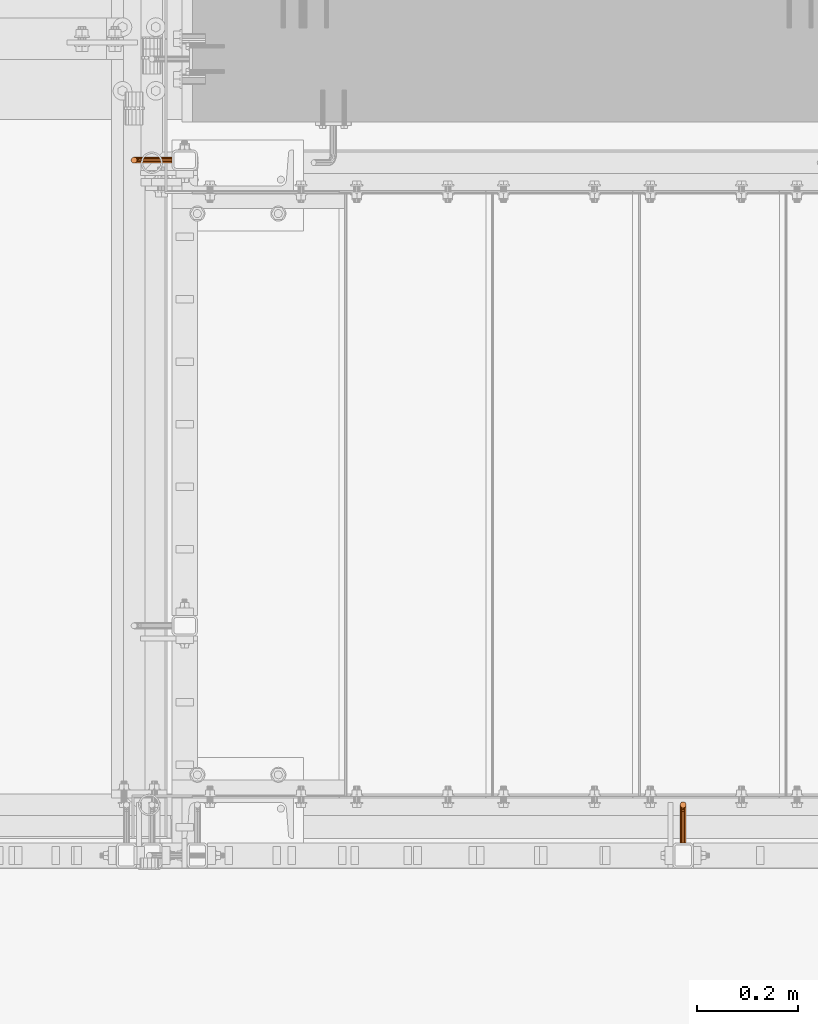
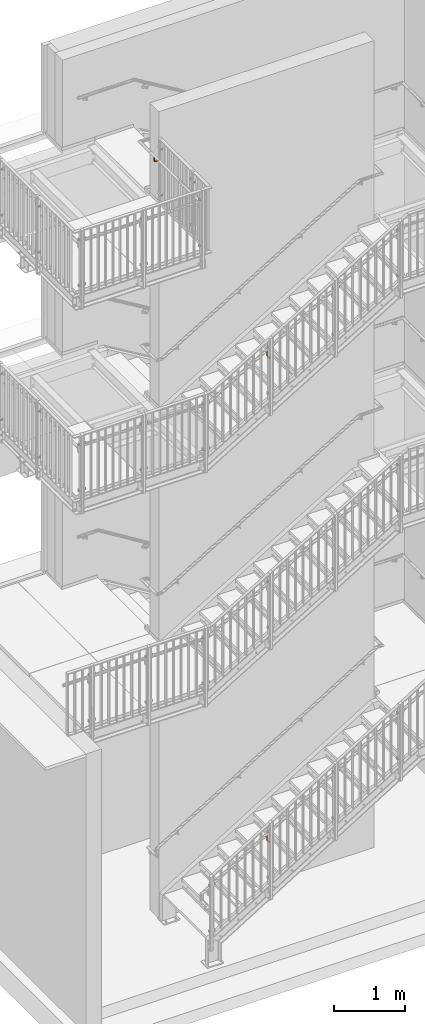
# One storey, part 373 of 410: 3 proxies.
"""IFC2X3 building model written with IfcOpenShell, lengths in millimetres."""

from ifc_helpers import new_model, entity, si_unit, converted_unit, origin_with_axes, place, context, project, spatial, faceted_brep, element, save


model = new_model("IFC2X3")

# Units and contexts
model_context = context("Model", 3, precision=1e-09, world=origin_with_axes())
ifc_project = project(units=[si_unit("LENGTHUNIT", "METRE", prefix="MILLI"), si_unit("AREAUNIT", "SQUARE_METRE"), si_unit("VOLUMEUNIT", "CUBIC_METRE"), converted_unit("PLANEANGLEUNIT", "DEGREE", entity("IfcPlaneAngleMeasure", 0.01745329), si_unit("PLANEANGLEUNIT", "RADIAN"), dimensions=[0, 0, 0, 0, 0, 0, 0])], contexts=[model_context])

# Site, building, storey
site_placement = place(None, origin_with_axes())
site = spatial("IfcSite", under=ifc_project, at=site_placement, Name="mKR Teilneubau & Sanierung BA1 - Ostfildern", CompositionType="ELEMENT")
building_placement = place(site_placement, origin_with_axes())
building = spatial("IfcBuilding", under=site, at=building_placement, Name="Struktur 1", CompositionType="ELEMENT")
storey_placement = place(building_placement, origin_with_axes())
storey = spatial("IfcBuildingStorey", under=building, at=storey_placement, Name="Default Storey", CompositionType="ELEMENT", Elevation=0.0)

# Proxies
proxy_1_placement = place(None, origin_with_axes())
element("IfcBuildingElementProxy", 1, at=proxy_1_placement, inside=storey, ObjectType="-", context=model_context, shape_type="Brep", body=[
    faceted_brep([(-740.194684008, 15430.999999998, -2967.444082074), (-737.998531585, 15430.999999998, -2969.640234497), (-734.998531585, 15430.999999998, -2970.444082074), (-731.998531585, 15430.999999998, -2969.640234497), (-729.802379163, 15430.999999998, -2967.444082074), (-728.998531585, 15430.999999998, -2964.444082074), (-729.802379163, 15430.999999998, -2961.444082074), (-731.998531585, 15430.999999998, -2959.247929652), (-734.998531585, 15430.999999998, -2958.444082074), (-737.998531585, 15430.999999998, -2959.247929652), (-740.194684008, 15430.999999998, -2961.444082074), (-740.998531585, 15430.999999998, -2964.444082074), (-731.998531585, 15487.999999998, -2959.247929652), (-729.802379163, 15487.999999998, -2961.444082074), (-737.998531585, 15487.999999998, -2959.247929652), (-740.194684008, 15487.999999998, -2961.444082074), (-734.998531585, 15487.999999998, -2958.444082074), (-729.802379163, 15493.740251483, -2960.302275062), (-731.998531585, 15492.899820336, -2958.273294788), (-740.998531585, 15487.999999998, -2964.444082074), (-734.998531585, 15492.592201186, -2957.530636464), (-728.998531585, 15487.999999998, -2964.444082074), (-731.998531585, 15497.053687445, -2955.497769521), (-734.998531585, 15496.485281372, -2954.929363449), (-737.998531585, 15492.899820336, -2958.273294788), (-740.194684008, 15493.740251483, -2960.302275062), (-731.998531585, 15499.829212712, -2951.343902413), (-734.998531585, 15499.086554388, -2951.036283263), (-728.998531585, 15494.888301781, -2963.07391366), (-729.802379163, 15498.606601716, -2957.050683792), (-729.802379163, 15487.999999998, -2967.444082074), (-731.998531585, 15487.999999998, -2969.640234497), (-734.998531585, 15487.999999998, -2970.444082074), (-737.998531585, 15487.999999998, -2969.640234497), (-740.194684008, 15487.999999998, -2967.444082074), (-740.998531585, 15494.888301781, -2963.07391366), (-737.998531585, 15497.053687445, -2955.497769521), (-737.998531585, 15499.829212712, -2951.343902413), (-737.29463218, 15500.456722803, -2894.428882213), (-737.998531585, 15500.803847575, -2946.444082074), (-734.998531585, 15499.999999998, -2946.444082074), (-734.998531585, 15499.999999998, -2893.049245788), (-730.755890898, 15510.242640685, -2890.500010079), (-732.702430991, 15511.543277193, -2891.669609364), (-734.998531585, 15511.999999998, -2893.049245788), (-737.29463218, 15511.543277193, -2894.428882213), (-739.241172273, 15510.242640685, -2895.598481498), (-740.541808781, 15508.296100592, -2896.379982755), (-740.998531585, 15505.999999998, -2896.654409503), (-740.541808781, 15503.703899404, -2896.379982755), (-739.241172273, 15501.757359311, -2895.598481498), (-732.702430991, 15500.456722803, -2891.669609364), (-730.755890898, 15501.757359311, -2890.500010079), (-729.45525439, 15503.703899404, -2889.718508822), (-728.998531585, 15505.999999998, -2889.444082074), (-729.45525439, 15508.296100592, -2889.718508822), (-740.194684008, 15496.036352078, -2965.845552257), (-740.194684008, 15498.606601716, -2957.050683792), (-740.998531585, 15500.727922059, -2959.172004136), (-731.998531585, 15500.803847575, -2946.444082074), (-729.802379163, 15501.858192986, -2952.18433356), (-729.802379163, 15496.036352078, -2965.845552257), (-728.998531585, 15500.727922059, -2959.172004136), (-731.998531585, 15496.876783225, -2967.874532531), (-734.998531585, 15497.184402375, -2968.617190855), (-737.998531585, 15496.876783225, -2967.874532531), (-740.194684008, 15502.849242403, -2961.293324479), (-740.194684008, 15502.999999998, -2946.444082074), (-740.194684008, 15501.858192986, -2952.18433356), (-737.998531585, 15504.402156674, -2962.84623875), (-740.998531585, 15504.629831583, -2953.332383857), (-740.194684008, 15507.401470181, -2954.480434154), (-729.802379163, 15502.999999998, -2946.444082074), (-728.998531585, 15504.629831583, -2953.332383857), (-729.802379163, 15502.849242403, -2961.293324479), (-731.998531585, 15504.402156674, -2962.84623875), (-734.998531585, 15504.970562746, -2963.414644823), (-737.998531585, 15509.430450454, -2955.320865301), (-740.998531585, 15505.999999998, -2946.444082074), (-734.998531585, 15510.173108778, -2955.628484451), (-740.194684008, 15508.999999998, -2946.444082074), (-737.998531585, 15511.196152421, -2946.444082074), (-728.998531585, 15505.999999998, -2946.444082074), (-729.802379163, 15507.401470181, -2954.480434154), (-731.998531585, 15509.430450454, -2955.320865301), (-734.998531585, 15511.999999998, -2946.444082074), (-731.998531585, 15511.196152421, -2946.444082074), (-729.802379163, 15508.999999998, -2946.444082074)], [[[0, 1, 2, 3, 4, 5, 6, 7, 8, 9, 10, 11]], [[12, 7, 6, 13]], [[9, 14, 15, 10]], [[8, 16, 14, 9]], [[7, 12, 16, 8]], [[12, 13, 17, 18]], [[10, 15, 19, 11]], [[18, 20, 16, 12]], [[13, 6, 5, 21]], [[22, 23, 20, 18]], [[15, 14, 24, 25]], [[14, 16, 20, 24]], [[23, 22, 26, 27]], [[13, 21, 28, 17]], [[18, 17, 29, 22]], [[4, 30, 21, 5]], [[3, 31, 30, 4]], [[2, 32, 31, 3]], [[1, 33, 32, 2]], [[0, 34, 33, 1]], [[11, 19, 34, 0]], [[19, 15, 25, 35]], [[23, 36, 24, 20]], [[27, 37, 36, 23]], [[38, 39, 40]], [[40, 39, 37, 27]], [[41, 38, 40]], [[42, 43, 44, 45, 46, 47, 48, 49, 50, 38, 41, 51, 52, 53, 54, 55]], [[35, 56, 34, 19]], [[35, 25, 57, 58]], [[25, 24, 36, 57]], [[38, 50, 39]], [[27, 26, 59, 40]], [[22, 29, 60, 26]], [[21, 30, 61, 28]], [[17, 28, 62, 29]], [[51, 41, 40]], [[30, 31, 63, 61]], [[31, 32, 64, 63]], [[32, 33, 65, 64]], [[33, 34, 56, 65]], [[56, 35, 58, 66]], [[39, 67, 68, 37]], [[37, 68, 57, 36]], [[50, 67, 39]], [[51, 40, 59]], [[66, 69, 65, 56]], [[66, 58, 70, 71]], [[58, 57, 68, 70]], [[50, 49, 67]], [[26, 60, 72, 59]], [[29, 62, 73, 60]], [[28, 61, 74, 62]], [[52, 51, 59]], [[61, 63, 75, 74]], [[63, 64, 76, 75]], [[64, 65, 69, 76]], [[69, 66, 71, 77]], [[67, 78, 70, 68]], [[49, 78, 67]], [[52, 59, 72]], [[77, 79, 76, 69]], [[77, 71, 80, 81]], [[71, 70, 78, 80]], [[49, 48, 78]], [[60, 73, 82, 72]], [[62, 74, 83, 73]], [[53, 52, 72]], [[74, 75, 84, 83]], [[75, 76, 79, 84]], [[79, 77, 81, 85]], [[45, 44, 85]], [[48, 47, 78]], [[53, 72, 82]], [[85, 86, 84, 79]], [[44, 43, 85]], [[45, 85, 81]], [[46, 81, 80]], [[47, 80, 78]], [[73, 83, 87, 82]], [[54, 53, 82]], [[83, 84, 86, 87]], [[43, 86, 85]], [[46, 45, 81]], [[47, 46, 80]], [[54, 82, 55]], [[43, 42, 86]], [[55, 82, 87]], [[42, 87, 86]], [[42, 55, 87]]]),
])
proxy_2_placement = place(None, origin_with_axes())
element("IfcBuildingElementProxy", 2, at=proxy_2_placement, inside=storey, ObjectType="-", context=model_context, shape_type="Brep", body=[
    faceted_brep([(-1802.0485317, 16780.0, 8238.6), (-1745.0485317, 16780.0, 8238.6), (-1745.0485317, 16783.0, 8237.796152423), (-1802.0485317, 16783.0, 8237.796152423), (-1745.0485317, 16774.803847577, 8229.6), (-1745.0485317, 16777.0, 8227.403847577), (-1745.0485317, 16780.0, 8226.6), (-1745.0485317, 16783.0, 8227.403847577), (-1745.0485317, 16785.196152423, 8229.6), (-1745.0485317, 16786.0, 8232.6), (-1745.0485317, 16785.196152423, 8235.6), (-1745.0485317, 16777.0, 8237.796152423), (-1745.0485317, 16774.803847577, 8235.6), (-1745.0485317, 16774.0, 8232.6), (-1802.0485317, 16777.0, 8237.796152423), (-1806.948352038, 16783.0, 8238.770787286), (-1806.640732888, 16780.0, 8239.51344561), (-1802.0485317, 16785.196152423, 8235.6), (-1806.948352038, 16777.0, 8238.770787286), (-1810.533813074, 16780.0, 8242.114718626), (-1811.102219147, 16777.0, 8241.546312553), (-1811.102219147, 16783.0, 8241.546312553), (-1807.788783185, 16785.196152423, 8236.741807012), (-1802.0485317, 16774.803847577, 8235.6), (-1813.13508609, 16780.0, 8246.007798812), (-1813.877744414, 16777.0, 8245.700179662), (-1814.852379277, 16777.0, 8250.6), (-1814.852379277, 16777.0, 8307.6), (-1817.0485317, 16774.803847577, 8307.6), (-1817.0485317, 16774.803847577, 8250.6), (-1814.0485317, 16780.0, 8250.6), (-1814.0485317, 16780.0, 8307.6), (-1802.0485317, 16786.0, 8232.6), (-1815.906724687, 16774.803847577, 8244.859748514), (-1807.788783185, 16774.803847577, 8236.741807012), (-1812.655133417, 16774.803847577, 8239.993398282), (-1823.0485317, 16785.196152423, 8307.6), (-1825.244684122, 16783.0, 8307.6), (-1826.0485317, 16780.0, 8307.6), (-1825.244684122, 16777.0, 8307.6), (-1823.0485317, 16774.803847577, 8307.6), (-1820.0485317, 16774.0, 8307.6), (-1814.852379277, 16783.0, 8307.6), (-1817.0485317, 16785.196152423, 8307.6), (-1820.0485317, 16786.0, 8307.6), (-1813.877744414, 16783.0, 8245.700179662), (-1808.936833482, 16786.0, 8233.970168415), (-1812.655133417, 16785.196152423, 8239.993398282), (-1802.0485317, 16774.0, 8232.6), (-1820.0485317, 16774.0, 8250.6), (-1814.852379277, 16783.0, 8250.6), (-1802.0485317, 16785.196152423, 8229.6), (-1818.678363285, 16774.0, 8243.711698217), (-1808.936833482, 16774.0, 8233.970168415), (-1814.776453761, 16774.0, 8237.872077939), (-1815.906724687, 16785.196152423, 8244.859748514), (-1810.084883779, 16785.196152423, 8231.198529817), (-1814.776453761, 16786.0, 8237.872077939), (-1802.0485317, 16783.0, 8227.403847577), (-1802.0485317, 16780.0, 8226.6), (-1802.0485317, 16777.0, 8227.403847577), (-1802.0485317, 16774.803847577, 8229.6), (-1823.0485317, 16774.803847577, 8250.6), (-1817.0485317, 16785.196152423, 8250.6), (-1821.450001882, 16774.803847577, 8242.56364792), (-1810.084883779, 16774.803847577, 8231.198529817), (-1816.897774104, 16774.803847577, 8235.750757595), (-1818.678363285, 16786.0, 8243.711698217), (-1810.925314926, 16783.0, 8229.169549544), (-1816.897774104, 16785.196152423, 8235.750757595), (-1811.232934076, 16780.0, 8228.42689122), (-1810.925314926, 16777.0, 8229.169549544), (-1825.244684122, 16777.0, 8250.6), (-1820.0485317, 16786.0, 8250.6), (-1823.478982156, 16777.0, 8241.723216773), (-1818.450688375, 16777.0, 8234.197843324), (-1821.450001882, 16785.196152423, 8242.56364792), (-1818.450688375, 16783.0, 8234.197843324), (-1826.0485317, 16780.0, 8250.6), (-1819.019094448, 16780.0, 8233.629437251), (-1823.0485317, 16785.196152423, 8250.6), (-1824.22164048, 16780.0, 8241.415597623), (-1823.478982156, 16783.0, 8241.723216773), (-1825.244684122, 16783.0, 8250.6)], [[[0, 1, 2, 3]], [[4, 5, 6, 7, 8, 9, 10, 2, 1, 11, 12, 13]], [[1, 0, 14, 11]], [[0, 3, 15, 16]], [[3, 2, 10, 17]], [[16, 18, 14, 0]], [[19, 20, 18, 16]], [[16, 15, 21, 19]], [[3, 17, 22, 15]], [[11, 14, 23, 12]], [[20, 19, 24, 25]], [[26, 27, 28, 29]], [[27, 26, 30, 31]], [[17, 10, 9, 32]], [[26, 29, 33, 25]], [[18, 34, 23, 14]], [[20, 35, 34, 18]], [[25, 33, 35, 20]], [[36, 37, 38, 39, 40, 41, 28, 27, 31, 42, 43, 44]], [[25, 24, 30, 26]], [[19, 21, 45, 24]], [[17, 32, 46, 22]], [[15, 22, 47, 21]], [[12, 23, 48, 13]], [[29, 28, 41, 49]], [[31, 30, 50, 42]], [[32, 9, 8, 51]], [[29, 49, 52, 33]], [[34, 53, 48, 23]], [[35, 54, 53, 34]], [[33, 52, 54, 35]], [[24, 45, 50, 30]], [[21, 47, 55, 45]], [[32, 51, 56, 46]], [[22, 46, 57, 47]], [[7, 58, 51, 8]], [[6, 59, 58, 7]], [[5, 60, 59, 6]], [[4, 61, 60, 5]], [[13, 48, 61, 4]], [[49, 41, 40, 62]], [[42, 50, 63, 43]], [[49, 62, 64, 52]], [[53, 65, 61, 48]], [[54, 66, 65, 53]], [[52, 64, 66, 54]], [[45, 55, 63, 50]], [[47, 57, 67, 55]], [[51, 58, 68, 56]], [[46, 56, 69, 57]], [[58, 59, 70, 68]], [[59, 60, 71, 70]], [[60, 61, 65, 71]], [[62, 40, 39, 72]], [[43, 63, 73, 44]], [[62, 72, 74, 64]], [[66, 75, 71, 65]], [[64, 74, 75, 66]], [[55, 67, 73, 63]], [[57, 69, 76, 67]], [[56, 68, 77, 69]], [[72, 39, 38, 78]], [[68, 70, 79, 77]], [[70, 71, 75, 79]], [[44, 73, 80, 36]], [[72, 78, 81, 74]], [[74, 81, 79, 75]], [[67, 76, 80, 73]], [[69, 77, 82, 76]], [[78, 38, 37, 83]], [[77, 79, 81, 82]], [[36, 80, 83, 37]], [[78, 83, 82, 81]], [[76, 82, 83, 80]]]),
])
proxy_3_placement = place(None, origin_with_axes())
element("IfcBuildingElementProxy", 3, at=proxy_3_placement, inside=storey, ObjectType="-", context=model_context, shape_type="Brep", body=[
    faceted_brep([(-740.194684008, 15430.999999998, 5311.413497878), (-737.998531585, 15430.999999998, 5309.217345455), (-734.998531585, 15430.999999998, 5308.413497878), (-731.998531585, 15430.999999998, 5309.217345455), (-729.802379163, 15430.999999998, 5311.413497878), (-728.998531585, 15430.999999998, 5314.413497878), (-729.802379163, 15430.999999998, 5317.413497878), (-731.998531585, 15430.999999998, 5319.609650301), (-734.998531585, 15430.999999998, 5320.413497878), (-737.998531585, 15430.999999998, 5319.609650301), (-740.194684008, 15430.999999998, 5317.413497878), (-740.998531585, 15430.999999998, 5314.413497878), (-731.998531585, 15487.999999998, 5319.609650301), (-729.802379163, 15487.999999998, 5317.413497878), (-737.998531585, 15487.999999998, 5319.609650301), (-740.194684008, 15487.999999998, 5317.413497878), (-734.998531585, 15487.999999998, 5320.413497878), (-729.802379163, 15493.740251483, 5318.55530489), (-731.998531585, 15492.899820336, 5320.584285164), (-740.998531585, 15487.999999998, 5314.413497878), (-734.998531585, 15492.592201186, 5321.326943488), (-728.998531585, 15487.999999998, 5314.413497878), (-731.998531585, 15497.053687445, 5323.359810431), (-734.998531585, 15496.485281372, 5323.928216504), (-737.998531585, 15492.899820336, 5320.584285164), (-740.194684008, 15493.740251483, 5318.55530489), (-731.998531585, 15499.829212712, 5327.51367754), (-734.998531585, 15499.086554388, 5327.82129669), (-728.998531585, 15494.888301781, 5315.783666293), (-729.802379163, 15498.606601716, 5321.80689616), (-729.802379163, 15487.999999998, 5311.413497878), (-731.998531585, 15487.999999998, 5309.217345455), (-734.998531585, 15487.999999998, 5308.413497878), (-737.998531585, 15487.999999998, 5309.217345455), (-740.194684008, 15487.999999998, 5311.413497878), (-740.998531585, 15494.888301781, 5315.783666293), (-737.998531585, 15497.053687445, 5323.359810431), (-737.998531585, 15499.829212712, 5327.51367754), (-737.29463218, 15500.456722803, 5384.428697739), (-737.998531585, 15500.803847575, 5332.413497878), (-734.998531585, 15499.999999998, 5332.413497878), (-734.998531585, 15499.999999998, 5385.808334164), (-730.755890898, 15510.242640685, 5388.357569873), (-732.702430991, 15511.543277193, 5387.187970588), (-734.998531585, 15511.999999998, 5385.808334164), (-737.29463218, 15511.543277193, 5384.428697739), (-739.241172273, 15510.242640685, 5383.259098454), (-740.541808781, 15508.296100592, 5382.477597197), (-740.998531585, 15505.999999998, 5382.20317045), (-740.541808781, 15503.703899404, 5382.477597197), (-739.241172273, 15501.757359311, 5383.259098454), (-732.702430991, 15500.456722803, 5387.187970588), (-730.755890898, 15501.757359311, 5388.357569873), (-729.45525439, 15503.703899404, 5389.139071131), (-728.998531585, 15505.999999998, 5389.413497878), (-729.45525439, 15508.296100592, 5389.139071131), (-740.194684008, 15496.036352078, 5313.012027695), (-740.194684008, 15498.606601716, 5321.80689616), (-740.998531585, 15500.727922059, 5319.685575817), (-731.998531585, 15500.803847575, 5332.413497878), (-729.802379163, 15501.858192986, 5326.673246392), (-729.802379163, 15496.036352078, 5313.012027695), (-728.998531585, 15500.727922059, 5319.685575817), (-731.998531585, 15496.876783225, 5310.983047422), (-734.998531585, 15497.184402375, 5310.240389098), (-737.998531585, 15496.876783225, 5310.983047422), (-740.194684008, 15502.849242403, 5317.564255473), (-740.194684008, 15502.999999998, 5332.413497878), (-740.194684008, 15501.858192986, 5326.673246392), (-737.998531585, 15504.402156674, 5316.011341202), (-740.998531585, 15504.629831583, 5325.525196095), (-740.194684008, 15507.401470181, 5324.377145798), (-729.802379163, 15502.999999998, 5332.413497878), (-728.998531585, 15504.629831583, 5325.525196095), (-729.802379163, 15502.849242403, 5317.564255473), (-731.998531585, 15504.402156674, 5316.011341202), (-734.998531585, 15504.970562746, 5315.442935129), (-737.998531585, 15509.430450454, 5323.536714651), (-740.998531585, 15505.999999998, 5332.413497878), (-734.998531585, 15510.173108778, 5323.229095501), (-740.194684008, 15508.999999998, 5332.413497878), (-737.998531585, 15511.196152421, 5332.413497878), (-728.998531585, 15505.999999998, 5332.413497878), (-729.802379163, 15507.401470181, 5324.377145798), (-731.998531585, 15509.430450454, 5323.536714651), (-734.998531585, 15511.999999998, 5332.413497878), (-731.998531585, 15511.196152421, 5332.413497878), (-729.802379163, 15508.999999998, 5332.413497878)], [[[0, 1, 2, 3, 4, 5, 6, 7, 8, 9, 10, 11]], [[12, 7, 6, 13]], [[9, 14, 15, 10]], [[8, 16, 14, 9]], [[7, 12, 16, 8]], [[12, 13, 17, 18]], [[10, 15, 19, 11]], [[18, 20, 16, 12]], [[13, 6, 5, 21]], [[22, 23, 20, 18]], [[15, 14, 24, 25]], [[14, 16, 20, 24]], [[23, 22, 26, 27]], [[13, 21, 28, 17]], [[18, 17, 29, 22]], [[4, 30, 21, 5]], [[3, 31, 30, 4]], [[2, 32, 31, 3]], [[1, 33, 32, 2]], [[0, 34, 33, 1]], [[11, 19, 34, 0]], [[19, 15, 25, 35]], [[23, 36, 24, 20]], [[27, 37, 36, 23]], [[38, 39, 40]], [[40, 39, 37, 27]], [[41, 38, 40]], [[42, 43, 44, 45, 46, 47, 48, 49, 50, 38, 41, 51, 52, 53, 54, 55]], [[35, 56, 34, 19]], [[35, 25, 57, 58]], [[25, 24, 36, 57]], [[38, 50, 39]], [[27, 26, 59, 40]], [[22, 29, 60, 26]], [[21, 30, 61, 28]], [[17, 28, 62, 29]], [[51, 41, 40]], [[30, 31, 63, 61]], [[31, 32, 64, 63]], [[32, 33, 65, 64]], [[33, 34, 56, 65]], [[56, 35, 58, 66]], [[39, 67, 68, 37]], [[37, 68, 57, 36]], [[50, 67, 39]], [[51, 40, 59]], [[66, 69, 65, 56]], [[66, 58, 70, 71]], [[58, 57, 68, 70]], [[50, 49, 67]], [[26, 60, 72, 59]], [[29, 62, 73, 60]], [[28, 61, 74, 62]], [[52, 51, 59]], [[61, 63, 75, 74]], [[63, 64, 76, 75]], [[64, 65, 69, 76]], [[69, 66, 71, 77]], [[67, 78, 70, 68]], [[49, 78, 67]], [[52, 59, 72]], [[77, 79, 76, 69]], [[77, 71, 80, 81]], [[71, 70, 78, 80]], [[49, 48, 78]], [[60, 73, 82, 72]], [[62, 74, 83, 73]], [[53, 52, 72]], [[74, 75, 84, 83]], [[75, 76, 79, 84]], [[79, 77, 81, 85]], [[45, 44, 85]], [[48, 47, 78]], [[53, 72, 82]], [[85, 86, 84, 79]], [[44, 43, 85]], [[45, 85, 81]], [[46, 81, 80]], [[47, 80, 78]], [[73, 83, 87, 82]], [[54, 53, 82]], [[83, 84, 86, 87]], [[43, 86, 85]], [[46, 45, 81]], [[47, 46, 80]], [[54, 82, 55]], [[43, 42, 86]], [[55, 82, 87]], [[42, 87, 86]], [[42, 55, 87]]]),
])

save(model, "model.ifc")
